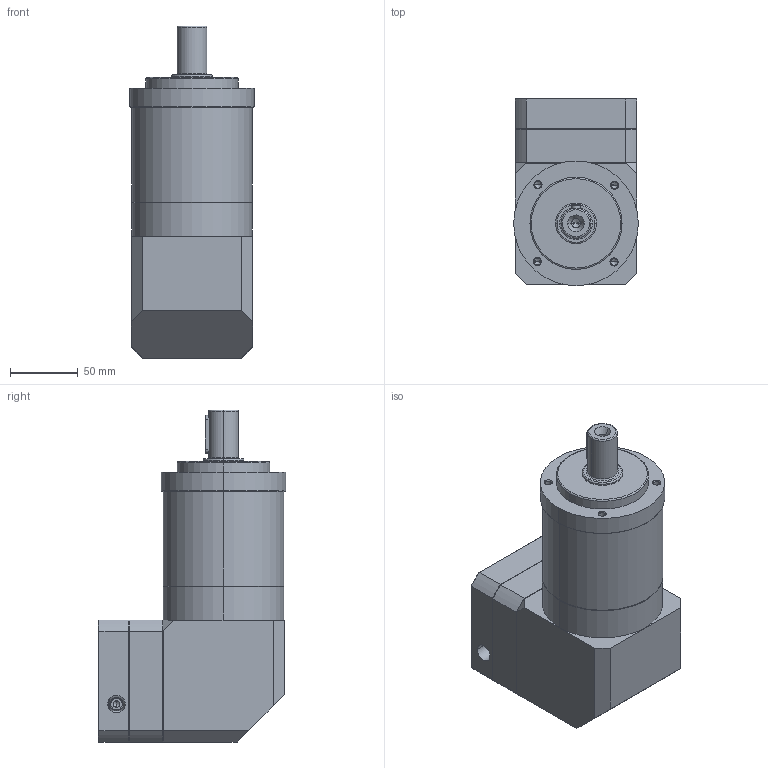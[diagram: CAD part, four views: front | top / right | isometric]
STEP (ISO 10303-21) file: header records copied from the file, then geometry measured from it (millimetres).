
FILE_DESCRIPTION (( 'STEP AP214' ), '1' );
FILE_NAME ('WPBL90-L2-19×40-70-90M6 三维零件图.STEP', '2021-08-11T00:19:30', ( 'XJJ' ), ( '' ), 'SwSTEP 2.0', 'SolidWorks 2016', '' );
FILE_SCHEMA (( 'AUTOMOTIVE_DESIGN' ));
Length unit declared in the file: millimetre
Products named in the file (3): hexagon socket head cap screws gb_GB_FASTENER_SCREWS_HSHCS M6X20-N; WPBL90-L2-19×40-70-90M6 三维外形图; WPBL90-L2-19×40-70-90M6 三维零件图
Assembly tree (2 placements, depth 2):
  WPBL90-L2-19×40-70-90M6 三维零件图
    WPBL90-L2-19×40-70-90M6 三维外形图
    hexagon socket head cap screws gb_GB_FASTENER_SCREWS_HSHCS M6X20-N
Bounding box: 92 x 138.5 x 245 mm (x, y, z)
Volume: 1689775.4 mm3; surface area: 113930.9 mm2
Topology: 2 solids, 2 shells, 217 faces, 503 edges, 293 vertices
Faces by surface type: plane 78, cylinder 69, cone 57, torus 13
Entity records: 6744 total; most frequent: CARTESIAN_POINT 1414, DIRECTION 1103, ORIENTED_EDGE 966, EDGE_CURVE 483, AXIS2_PLACEMENT_3D 430, VERTEX_POINT 293, EDGE_LOOP 248, LINE 243
